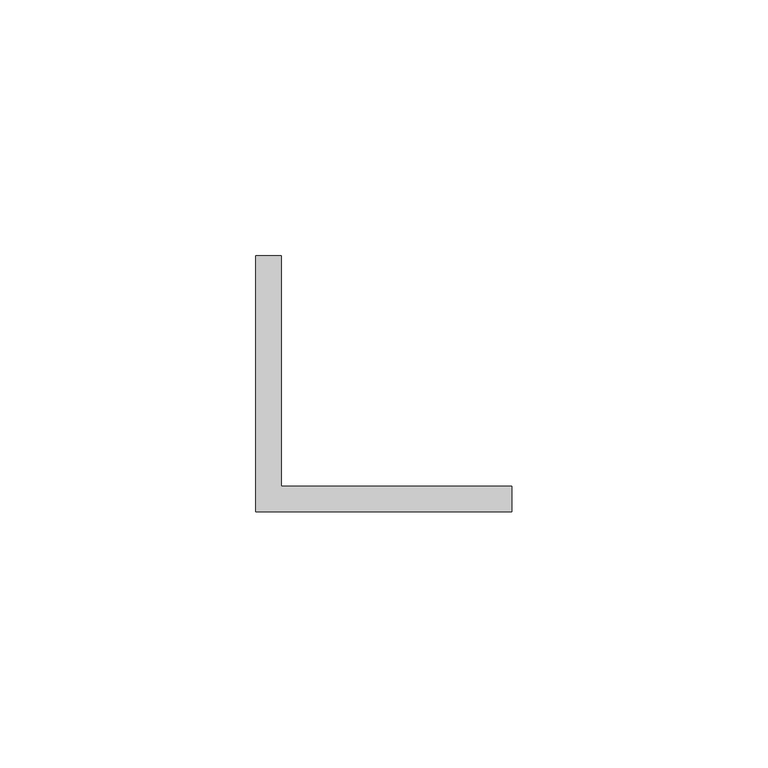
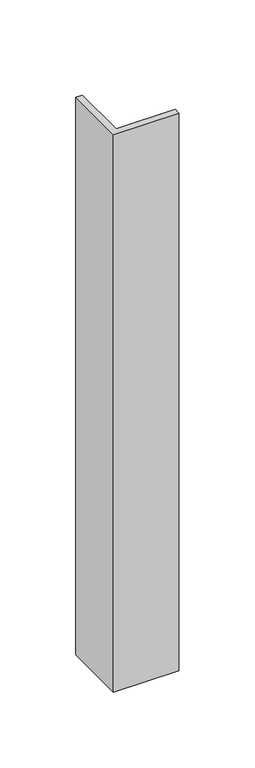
"""IFC4 building model written with IfcOpenShell, lengths in millimetres: proxy geometry, ▲EE_Уголок_стальной : 50х50х5_мм."""

import ifcopenshell
import ifcopenshell.guid

model = None  # the IFC model being written
_history = None  # IfcOwnerHistory: only IFC2X3 demands one
_inside = {}  # id of a spatial element -> (the spatial element, [elements in it])
_under = {}  # id of a project, library or spatial element -> (it, [spatial elements below it])
_declared = {}  # id of a project -> (the project, [libraries it declares])
_typed = {}  # id of a type object -> (the type object, [elements of that type])
_made_of = {}  # id of a material, layer set ... -> (it, [elements and type objects made of it])


def new_model(schema):
    """Start an empty IFC model of exactly this schema.

    Asked for "IFC4X3", IfcOpenShell would pick the latest addendum, in which some entities
    have other attributes; the version numbers below select the first issue.
    IFC2X3 requires an IfcOwnerHistory on every rooted entity: one is made here for all.
    """
    global model, _history
    if schema == "IFC4X3":
        model = ifcopenshell.file(schema_version=(4, 3, 0, 0))
    else:
        model = ifcopenshell.file(schema=schema)
    _inside.clear()
    _under.clear()
    _declared.clear()
    _typed.clear()
    _made_of.clear()
    _history = None
    if model.schema == "IFC2X3":
        org = make("IfcOrganization", Name="unknown")
        user = make(
            "IfcPersonAndOrganization",
            ThePerson=make("IfcPerson", FamilyName="unknown"),
            TheOrganization=org,
        )
        app = make(
            "IfcApplication",
            ApplicationDeveloper=org,
            Version="unknown",
            ApplicationFullName="unknown",
            ApplicationIdentifier="unknown",
        )
        _history = make(
            "IfcOwnerHistory",
            OwningUser=user,
            OwningApplication=app,
            ChangeAction="ADDED",
            CreationDate=0,
        )
    return model


def make(cls, **values):
    """One entity of the class cls with the attributes given. An attribute that is None is left unset."""
    return model.create_entity(
        cls, **{name: value for name, value in values.items() if value is not None}
    )


def rooted(cls, **values):
    """An entity with a GlobalId (a new one), such as an element, a storey or a relation."""
    return make(cls, GlobalId=ifcopenshell.guid.new(), OwnerHistory=_history, **values)


def si_unit(unit_type, name, prefix=None):
    """IfcSIUnit, for example si_unit("LENGTHUNIT", "METRE", prefix="MILLI")."""
    return make("IfcSIUnit", UnitType=unit_type, Prefix=prefix, Name=name)


def assignment(units):
    """IfcUnitAssignment: the units of a project."""
    return None if units is None else make("IfcUnitAssignment", Units=units)


def point(xyz):
    """IfcCartesianPoint."""
    return None if xyz is None else make("IfcCartesianPoint", Coordinates=xyz)


def direction(xyz):
    """IfcDirection."""
    return None if xyz is None else make("IfcDirection", DirectionRatios=xyz)


def frame(location, z_axis=None, x_axis=None):
    """IfcAxis2Placement3D, a coordinate frame: its origin and axes. An axis left out is left unset."""
    return make(
        "IfcAxis2Placement3D",
        Location=point(location),
        Axis=direction(z_axis),
        RefDirection=direction(x_axis),
    )


def origin():
    """The frame at (0, 0, 0) with its axes left unset."""
    return frame((0.0, 0.0, 0.0))


def origin_with_axes():
    """The frame at (0, 0, 0) with the z axis (0, 0, 1) and the x axis (1, 0, 0) written out."""
    return frame((0.0, 0.0, 0.0), z_axis=(0.0, 0.0, 1.0), x_axis=(1.0, 0.0, 0.0))


def place(relative_to, where):
    """IfcLocalPlacement: puts the frame where relative to a parent placement (None: the world)."""
    return make(
        "IfcLocalPlacement", PlacementRelTo=relative_to, RelativePlacement=where
    )


def context(
    kind, dimensions, precision=None, world=None, true_north=None, identifier=None
):
    """IfcGeometricRepresentationContext, for example the 3D "Model" context."""
    return make(
        "IfcGeometricRepresentationContext",
        ContextIdentifier=identifier,
        ContextType=kind,
        CoordinateSpaceDimension=dimensions,
        Precision=precision,
        WorldCoordinateSystem=world,
        TrueNorth=true_north,
    )


def project(units=None, contexts=None):
    """IfcProject with its units and contexts."""
    return rooted(
        "IfcProject",
        Name="project",
        RepresentationContexts=contexts,
        UnitsInContext=assignment(units),
    )


def spatial(cls, under=None, at=None, **own):
    """A site, building, storey or space (cls), placed at a placement, below another one or the project."""
    s = rooted(cls, ObjectPlacement=at, **own)
    if under is not None:
        _under.setdefault(under.id(), (under, []))[1].append(s)
    return s


def polyline(points):
    """IfcPolyline through the points."""
    return make("IfcPolyline", Points=[point(p) for p in points])


def outline(outer, holes=None, kind="AREA"):
    """IfcArbitraryClosedProfileDef: a profile drawn as a closed curve; with holes, ...WithVoids."""
    if holes is None:
        return make("IfcArbitraryClosedProfileDef", ProfileType=kind, OuterCurve=outer)
    return make(
        "IfcArbitraryProfileDefWithVoids",
        ProfileType=kind,
        OuterCurve=outer,
        InnerCurves=holes,
    )


def extrude(swept, where, along, depth):
    """IfcExtrudedAreaSolid: the profile swept, set in the frame where, extruded along a direction by depth."""
    return make(
        "IfcExtrudedAreaSolid",
        SweptArea=swept,
        Position=where,
        ExtrudedDirection=direction(along),
        Depth=depth,
    )


def shape(context_of_items, identifier, shape_type, items):
    """IfcShapeRepresentation: the items that make up one representation, for example the "Body"."""
    return make(
        "IfcShapeRepresentation",
        ContextOfItems=context_of_items,
        RepresentationIdentifier=identifier,
        RepresentationType=shape_type,
        Items=items,
    )


def source(mapping_origin, context_of_items, identifier, shape_type, items):
    """IfcRepresentationMap: a shape defined once, which mapped items show again and again."""
    return make(
        "IfcRepresentationMap",
        MappingOrigin=mapping_origin,
        MappedRepresentation=shape(context_of_items, identifier, shape_type, items),
    )


def transform(
    local_origin,
    x_axis=None,
    y_axis=None,
    z_axis=None,
    scale=None,
    scale2=None,
    scale3=None,
    uniform=True,
):
    """IfcCartesianTransformationOperator3D, or its non-uniform kind. x_axis, y_axis, z_axis: its Axis1, 2, 3."""
    if uniform:
        return make(
            "IfcCartesianTransformationOperator3D",
            Axis1=direction(x_axis),
            Axis2=direction(y_axis),
            LocalOrigin=point(local_origin),
            Scale=scale,
            Axis3=direction(z_axis),
        )
    return make(
        "IfcCartesianTransformationOperator3DnonUniform",
        Axis1=direction(x_axis),
        Axis2=direction(y_axis),
        LocalOrigin=point(local_origin),
        Scale=scale,
        Axis3=direction(z_axis),
        Scale2=scale2,
        Scale3=scale3,
    )


def mapped(mapping_source, mapping_target):
    """IfcMappedItem: shows the shape of a source again, moved by a transform."""
    return make(
        "IfcMappedItem", MappingSource=mapping_source, MappingTarget=mapping_target
    )


def made_of(thing, what):
    """Note that an element or type object is made of a material, layer set ...; save() writes the relation."""
    if what is not None:
        _made_of.setdefault(what.id(), (what, []))[1].append(thing)
    return thing


def element(
    cls,
    number,
    at=None,
    inside=None,
    cuts=None,
    type_object=None,
    material=None,
    context=None,
    identifier="Body",
    shape_type=None,
    held_by="IfcProductDefinitionShape",
    body=None,
    shapes=None,
    **own,
):
    """One element of the class cls, such as IfcWall. Its Tag is "e" and its number.

    at: its placement. inside: the storey or other place that contains it. cuts: it is an
    opening in that element (IfcRelVoidsElement). A single representation is given by context,
    identifier, shape_type and body (its items); several are given by shapes. held_by: the class
    of the entity that holds the representations. save() writes the other relations.
    """
    e = rooted(cls, Tag="e%d" % number, ObjectPlacement=at, **own)
    if body is not None:
        shapes = [shape(context, identifier, shape_type, body)]
    if shapes is not None:
        e.Representation = make(held_by, Representations=shapes)
    if inside is not None:
        _inside.setdefault(inside.id(), (inside, []))[1].append(e)
    if cuts is not None:
        rooted(
            "IfcRelVoidsElement", RelatingBuildingElement=cuts, RelatedOpeningElement=e
        )
    if type_object is not None:
        _typed.setdefault(type_object.id(), (type_object, []))[1].append(e)
    return made_of(e, material)


def aggregate(whole, parts):
    """IfcRelAggregates: a whole, such as a stair, and the parts it consists of."""
    return rooted("IfcRelAggregates", RelatingObject=whole, RelatedObjects=parts)


def save(model, path):
    """Write the relations noted so far, then the file.

    IfcRelAggregates (storeys below a building ...), IfcRelContainedInSpatialStructure (elements
    in a storey), IfcRelDefinesByType, IfcRelAssociatesMaterial and IfcRelDeclares: one each for
    every whole, place, type object, material and project.
    """
    for whole, parts in _under.values():
        aggregate(whole, parts)
    for where, things in _inside.values():
        rooted(
            "IfcRelContainedInSpatialStructure",
            RelatedElements=things,
            RelatingStructure=where,
        )
    for kind, things in _typed.values():
        rooted("IfcRelDefinesByType", RelatedObjects=things, RelatingType=kind)
    for what, things in _made_of.values():
        rooted("IfcRelAssociatesMaterial", RelatedObjects=things, RelatingMaterial=what)
    for by, libraries in _declared.values():
        rooted("IfcRelDeclares", RelatingContext=by, RelatedDefinitions=libraries)
    model.write(path)


def electrical_equipment_901cc76d(model_context):
    return source(origin(), model_context, "Body", "SweptSolid", [
        extrude(outline(polyline([(0.0, -450.0), (0.0, -400.0), (5.0, -400.0), (5.0, -445.0), (50.0, -445.0), (50.0, -450.0), (0.0, -450.0)])), origin_with_axes(), (0.0, 0.0, 1.0), 450.0),
    ])


if __name__ == "__main__":
    model = new_model("IFC4")
    model_context = context("Model", 3, world=origin())
    ifc_project = project(units=[si_unit("LENGTHUNIT", "METRE", prefix="MILLI")], contexts=[model_context])
    site = spatial("IfcSite", under=ifc_project)
    building = spatial("IfcBuilding", under=site)
    placement = place(None, origin())
    electrical_equipment_shape = electrical_equipment_901cc76d(model_context)
    element("IfcBuildingElementProxy", 1, Name="▲EE_Уголок_стальной : 50х50х5_мм", ObjectType="▲EE_Уголок_стальной : 50х50х5_мм", at=placement, inside=building, context=model_context, shape_type="MappedRepresentation", body=[
        mapped(electrical_equipment_shape, transform((0.0, 0.0, 0.0), x_axis=(1.0, 0.0, 0.0), y_axis=(0.0, 1.0, 0.0), z_axis=(0.0, 0.0, 1.0))),
    ])
    save(model, "model.ifc")
